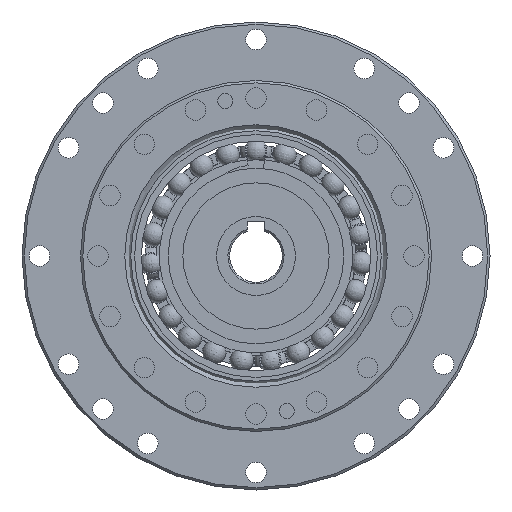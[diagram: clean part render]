
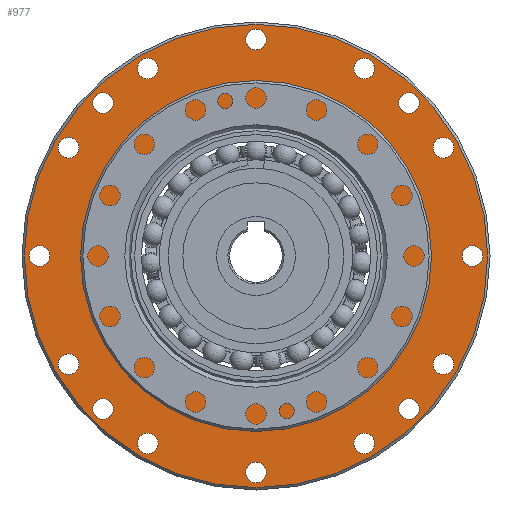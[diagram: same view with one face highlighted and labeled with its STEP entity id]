
A CAD part, left-side view. The second image highlights one B-rep face of the part: STEP entity #977.
In plain terms, the highlighted planar face has unit normal (-1, 0, 0).
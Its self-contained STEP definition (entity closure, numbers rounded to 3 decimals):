
#899=PLANE('',#4568);
#977=ADVANCED_FACE('',(#1342,#1343,#1344,#1345,#1346,#1347,#1348,#1349,
#1350,#1351,#1352,#1353,#1354,#1355,#1356,#1357,#1358,#1359),#899,.T.);
#1342=FACE_BOUND('',#1619,.T.);
#1343=FACE_BOUND('',#1620,.T.);
#1344=FACE_BOUND('',#1621,.T.);
#1345=FACE_BOUND('',#1622,.T.);
#1346=FACE_BOUND('',#1623,.T.);
#1347=FACE_BOUND('',#1624,.T.);
#1348=FACE_BOUND('',#1625,.T.);
#1349=FACE_BOUND('',#1626,.T.);
#1350=FACE_BOUND('',#1627,.T.);
#1351=FACE_BOUND('',#1628,.T.);
#1352=FACE_BOUND('',#1629,.T.);
#1353=FACE_BOUND('',#1630,.T.);
#1354=FACE_BOUND('',#1631,.T.);
#1355=FACE_BOUND('',#1632,.T.);
#1356=FACE_BOUND('',#1633,.T.);
#1357=FACE_BOUND('',#1634,.T.);
#1358=FACE_BOUND('',#1635,.T.);
#1359=FACE_BOUND('',#1636,.T.);
#1619=EDGE_LOOP('',(#2024));
#1620=EDGE_LOOP('',(#2025));
#1621=EDGE_LOOP('',(#2026));
#1622=EDGE_LOOP('',(#2027));
#1623=EDGE_LOOP('',(#2028));
#1624=EDGE_LOOP('',(#2029));
#1625=EDGE_LOOP('',(#2030));
#1626=EDGE_LOOP('',(#2031));
#1627=EDGE_LOOP('',(#2032));
#1628=EDGE_LOOP('',(#2033));
#1629=EDGE_LOOP('',(#2034));
#1630=EDGE_LOOP('',(#2035));
#1631=EDGE_LOOP('',(#2036));
#1632=EDGE_LOOP('',(#2037));
#1633=EDGE_LOOP('',(#2038));
#1634=EDGE_LOOP('',(#2039));
#1635=EDGE_LOOP('',(#2040));
#1636=EDGE_LOOP('',(#2041));
#2024=ORIENTED_EDGE('',*,*,#3614,.T.);
#2025=ORIENTED_EDGE('',*,*,#3615,.T.);
#2026=ORIENTED_EDGE('',*,*,#3616,.T.);
#2027=ORIENTED_EDGE('',*,*,#3617,.T.);
#2028=ORIENTED_EDGE('',*,*,#3618,.T.);
#2029=ORIENTED_EDGE('',*,*,#3619,.T.);
#2030=ORIENTED_EDGE('',*,*,#3620,.T.);
#2031=ORIENTED_EDGE('',*,*,#3621,.T.);
#2032=ORIENTED_EDGE('',*,*,#3622,.T.);
#2033=ORIENTED_EDGE('',*,*,#3623,.T.);
#2034=ORIENTED_EDGE('',*,*,#3624,.T.);
#2035=ORIENTED_EDGE('',*,*,#3625,.T.);
#2036=ORIENTED_EDGE('',*,*,#3626,.T.);
#2037=ORIENTED_EDGE('',*,*,#3627,.T.);
#2038=ORIENTED_EDGE('',*,*,#3628,.T.);
#2039=ORIENTED_EDGE('',*,*,#3629,.T.);
#2040=ORIENTED_EDGE('',*,*,#3630,.T.);
#2041=ORIENTED_EDGE('',*,*,#3631,.T.);
#3168=VERTEX_POINT('',#6271);
#3169=VERTEX_POINT('',#6273);
#3170=VERTEX_POINT('',#6275);
#3171=VERTEX_POINT('',#6277);
#3172=VERTEX_POINT('',#6279);
#3173=VERTEX_POINT('',#6281);
#3174=VERTEX_POINT('',#6283);
#3175=VERTEX_POINT('',#6285);
#3176=VERTEX_POINT('',#6287);
#3177=VERTEX_POINT('',#6289);
#3178=VERTEX_POINT('',#6291);
#3179=VERTEX_POINT('',#6293);
#3180=VERTEX_POINT('',#6295);
#3181=VERTEX_POINT('',#6297);
#3182=VERTEX_POINT('',#6299);
#3183=VERTEX_POINT('',#6301);
#3184=VERTEX_POINT('',#6303);
#3185=VERTEX_POINT('',#6305);
#3614=EDGE_CURVE('',#3168,#3168,#4273,.T.);
#3615=EDGE_CURVE('',#3169,#3169,#4274,.T.);
#3616=EDGE_CURVE('',#3170,#3170,#4275,.T.);
#3617=EDGE_CURVE('',#3171,#3171,#4276,.T.);
#3618=EDGE_CURVE('',#3172,#3172,#4277,.T.);
#3619=EDGE_CURVE('',#3173,#3173,#4278,.T.);
#3620=EDGE_CURVE('',#3174,#3174,#4279,.T.);
#3621=EDGE_CURVE('',#3175,#3175,#4280,.T.);
#3622=EDGE_CURVE('',#3176,#3176,#4281,.T.);
#3623=EDGE_CURVE('',#3177,#3177,#4282,.T.);
#3624=EDGE_CURVE('',#3178,#3178,#4283,.T.);
#3625=EDGE_CURVE('',#3179,#3179,#4284,.T.);
#3626=EDGE_CURVE('',#3180,#3180,#4285,.T.);
#3627=EDGE_CURVE('',#3181,#3181,#4286,.T.);
#3628=EDGE_CURVE('',#3182,#3182,#4287,.T.);
#3629=EDGE_CURVE('',#3183,#3183,#4288,.T.);
#3630=EDGE_CURVE('',#3184,#3184,#4289,.T.);
#3631=EDGE_CURVE('',#3185,#3185,#4290,.T.);
#4273=CIRCLE('',#4550,22.15);
#4274=CIRCLE('',#4551,1.75);
#4275=CIRCLE('',#4552,1.75);
#4276=CIRCLE('',#4553,1.75);
#4277=CIRCLE('',#4554,1.75);
#4278=CIRCLE('',#4555,1.75);
#4279=CIRCLE('',#4556,1.75);
#4280=CIRCLE('',#4557,1.75);
#4281=CIRCLE('',#4558,1.75);
#4282=CIRCLE('',#4559,1.75);
#4283=CIRCLE('',#4560,1.75);
#4284=CIRCLE('',#4561,1.75);
#4285=CIRCLE('',#4562,1.75);
#4286=CIRCLE('',#4563,1.75);
#4287=CIRCLE('',#4564,1.75);
#4288=CIRCLE('',#4565,1.75);
#4289=CIRCLE('',#4566,1.75);
#4290=CIRCLE('',#4567,39.6);
#4550=AXIS2_PLACEMENT_3D('',#6270,#5099,#5100);
#4551=AXIS2_PLACEMENT_3D('',#6272,#5101,#5102);
#4552=AXIS2_PLACEMENT_3D('',#6274,#5103,#5104);
#4553=AXIS2_PLACEMENT_3D('',#6276,#5105,#5106);
#4554=AXIS2_PLACEMENT_3D('',#6278,#5107,#5108);
#4555=AXIS2_PLACEMENT_3D('',#6280,#5109,#5110);
#4556=AXIS2_PLACEMENT_3D('',#6282,#5111,#5112);
#4557=AXIS2_PLACEMENT_3D('',#6284,#5113,#5114);
#4558=AXIS2_PLACEMENT_3D('',#6286,#5115,#5116);
#4559=AXIS2_PLACEMENT_3D('',#6288,#5117,#5118);
#4560=AXIS2_PLACEMENT_3D('',#6290,#5119,#5120);
#4561=AXIS2_PLACEMENT_3D('',#6292,#5121,#5122);
#4562=AXIS2_PLACEMENT_3D('',#6294,#5123,#5124);
#4563=AXIS2_PLACEMENT_3D('',#6296,#5125,#5126);
#4564=AXIS2_PLACEMENT_3D('',#6298,#5127,#5128);
#4565=AXIS2_PLACEMENT_3D('',#6300,#5129,#5130);
#4566=AXIS2_PLACEMENT_3D('',#6302,#5131,#5132);
#4567=AXIS2_PLACEMENT_3D('',#6304,#5133,#5134);
#4568=AXIS2_PLACEMENT_3D('',#6306,#5135,#5136);
#5099=DIRECTION('',(1.,0.,0.));
#5100=DIRECTION('',(0.,0.,1.));
#5101=DIRECTION('',(1.,0.,0.));
#5102=DIRECTION('',(0.,0.,-1.));
#5103=DIRECTION('',(1.,0.,0.));
#5104=DIRECTION('',(0.,0.,-1.));
#5105=DIRECTION('',(1.,0.,0.));
#5106=DIRECTION('',(0.,0.,-1.));
#5107=DIRECTION('',(1.,0.,0.));
#5108=DIRECTION('',(0.,0.,-1.));
#5109=DIRECTION('',(1.,0.,0.));
#5110=DIRECTION('',(0.,0.,-1.));
#5111=DIRECTION('',(1.,0.,0.));
#5112=DIRECTION('',(0.,0.,-1.));
#5113=DIRECTION('',(1.,0.,0.));
#5114=DIRECTION('',(0.,0.,-1.));
#5115=DIRECTION('',(1.,0.,0.));
#5116=DIRECTION('',(0.,0.,-1.));
#5117=DIRECTION('',(1.,0.,0.));
#5118=DIRECTION('',(0.,0.,-1.));
#5119=DIRECTION('',(1.,0.,0.));
#5120=DIRECTION('',(0.,0.,-1.));
#5121=DIRECTION('',(1.,0.,0.));
#5122=DIRECTION('',(0.,0.,-1.));
#5123=DIRECTION('',(1.,0.,0.));
#5124=DIRECTION('',(0.,0.,-1.));
#5125=DIRECTION('',(1.,0.,0.));
#5126=DIRECTION('',(0.,0.,-1.));
#5127=DIRECTION('',(1.,0.,0.));
#5128=DIRECTION('',(0.,0.,-1.));
#5129=DIRECTION('',(1.,0.,0.));
#5130=DIRECTION('',(0.,0.,-1.));
#5131=DIRECTION('',(1.,0.,0.));
#5132=DIRECTION('',(0.,0.,-1.));
#5133=DIRECTION('',(-1.,0.,0.));
#5134=DIRECTION('',(0.,0.,1.));
#5135=DIRECTION('',(-1.,0.,0.));
#5136=DIRECTION('',(0.,0.,1.));
#6270=CARTESIAN_POINT('',(23.75,0.,0.));
#6271=CARTESIAN_POINT('',(23.75,0.,22.15));
#6272=CARTESIAN_POINT('',(23.75,26.163,-26.163));
#6273=CARTESIAN_POINT('',(23.75,26.163,-27.913));
#6274=CARTESIAN_POINT('',(23.75,26.163,26.163));
#6275=CARTESIAN_POINT('',(23.75,26.163,24.413));
#6276=CARTESIAN_POINT('',(23.75,-26.163,26.163));
#6277=CARTESIAN_POINT('',(23.75,-26.163,24.413));
#6278=CARTESIAN_POINT('',(23.75,-26.163,-26.163));
#6279=CARTESIAN_POINT('',(23.75,-26.163,-27.913));
#6280=CARTESIAN_POINT('',(23.75,-18.5,-32.043));
#6281=CARTESIAN_POINT('',(23.75,-18.5,-33.793));
#6282=CARTESIAN_POINT('',(23.75,-32.043,-18.5));
#6283=CARTESIAN_POINT('',(23.75,-32.043,-20.25));
#6284=CARTESIAN_POINT('',(23.75,-37.,0.));
#6285=CARTESIAN_POINT('',(23.75,-37.,-1.75));
#6286=CARTESIAN_POINT('',(23.75,-32.043,18.5));
#6287=CARTESIAN_POINT('',(23.75,-32.043,16.75));
#6288=CARTESIAN_POINT('',(23.75,-18.5,32.043));
#6289=CARTESIAN_POINT('',(23.75,-18.5,30.293));
#6290=CARTESIAN_POINT('',(23.75,0.,37.));
#6291=CARTESIAN_POINT('',(23.75,0.,35.25));
#6292=CARTESIAN_POINT('',(23.75,18.5,32.043));
#6293=CARTESIAN_POINT('',(23.75,18.5,30.293));
#6294=CARTESIAN_POINT('',(23.75,32.043,18.5));
#6295=CARTESIAN_POINT('',(23.75,32.043,16.75));
#6296=CARTESIAN_POINT('',(23.75,37.,0.));
#6297=CARTESIAN_POINT('',(23.75,37.,-1.75));
#6298=CARTESIAN_POINT('',(23.75,32.043,-18.5));
#6299=CARTESIAN_POINT('',(23.75,32.043,-20.25));
#6300=CARTESIAN_POINT('',(23.75,18.5,-32.043));
#6301=CARTESIAN_POINT('',(23.75,18.5,-33.793));
#6302=CARTESIAN_POINT('',(23.75,0.,-37.));
#6303=CARTESIAN_POINT('',(23.75,0.,-38.75));
#6304=CARTESIAN_POINT('',(23.75,0.,0.));
#6305=CARTESIAN_POINT('',(23.75,0.,39.6));
#6306=CARTESIAN_POINT('',(23.75,40.,0.));
